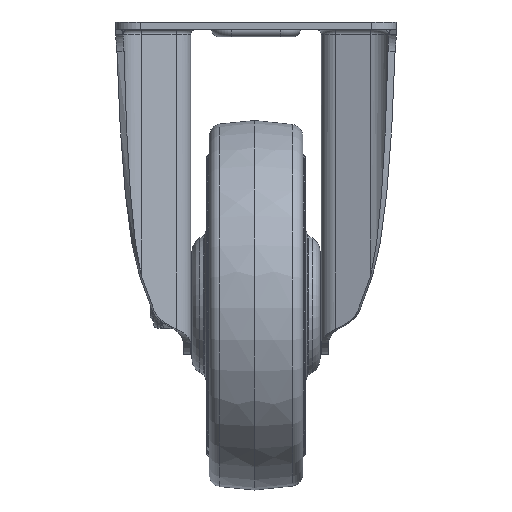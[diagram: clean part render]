
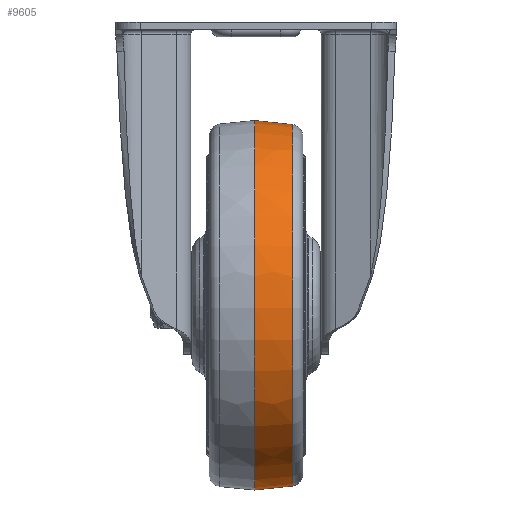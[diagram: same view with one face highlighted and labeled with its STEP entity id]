
A CAD part, front view. The second image highlights one B-rep face of the part: STEP entity #9605.
In plain terms, the highlighted free-form (B-spline) face has degree [2, 2] with [3, 9] control points.
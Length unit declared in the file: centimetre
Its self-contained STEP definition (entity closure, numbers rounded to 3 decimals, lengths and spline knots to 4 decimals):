
#1309=(
BOUNDED_CURVE()
B_SPLINE_CURVE(2,(#15712,#15713,#15714),.UNSPECIFIED.,.F.,.F.)
B_SPLINE_CURVE_WITH_KNOTS((3,3),(0.0063,0.2014),
 .UNSPECIFIED.)
CURVE()
GEOMETRIC_REPRESENTATION_ITEM()
RATIONAL_B_SPLINE_CURVE((1.,0.995,1.))
REPRESENTATION_ITEM('')
);
#1330=(
BOUNDED_SURFACE()
B_SPLINE_SURFACE(2,2,((#15681,#15682,#15683,#15684,#15685,#15686,#15687,
#15688,#15689),(#15690,#15691,#15692,#15693,#15694,#15695,#15696,#15697,
#15698),(#15699,#15700,#15701,#15702,#15703,#15704,#15705,#15706,#15707)),
 .UNSPECIFIED.,.F.,.T.,.F.)
B_SPLINE_SURFACE_WITH_KNOTS((3,3),(3,2,2,2,3),(-0.2014,-0.0063),
(-3.1416,-1.5708,0.,1.5708,3.1416),
 .UNSPECIFIED.)
GEOMETRIC_REPRESENTATION_ITEM()
RATIONAL_B_SPLINE_SURFACE(((1.,0.707,1.,0.707,1.,
0.707,1.,0.707,1.),(0.995,0.704,
0.995,0.704,0.995,0.704,
0.995,0.704,0.995),(1.,0.707,
1.,0.707,1.,0.707,1.,0.707,1.)))
REPRESENTATION_ITEM('')
SURFACE()
);
#2285=FACE_OUTER_BOUND('',#2898,.T.);
#2898=EDGE_LOOP('',(#6666,#6667,#6668,#6669,#6670,#6671));
#3613=CIRCLE('',#10295,7.3384);
#3614=CIRCLE('',#10296,7.3384);
#3615=CIRCLE('',#10297,7.4998);
#3616=CIRCLE('',#10298,7.4998);
#4070=VERTEX_POINT('',#15677);
#4071=VERTEX_POINT('',#15678);
#4072=VERTEX_POINT('',#15708);
#4073=VERTEX_POINT('',#15709);
#5072=EDGE_CURVE('',#4070,#4071,#3613,.T.);
#5073=EDGE_CURVE('',#4071,#4070,#3614,.T.);
#5074=EDGE_CURVE('',#4072,#4073,#3615,.T.);
#5075=EDGE_CURVE('',#4073,#4072,#3616,.T.);
#5076=EDGE_CURVE('',#4073,#4071,#1309,.T.);
#6666=ORIENTED_EDGE('',*,*,#5074,.F.);
#6667=ORIENTED_EDGE('',*,*,#5075,.F.);
#6668=ORIENTED_EDGE('',*,*,#5076,.T.);
#6669=ORIENTED_EDGE('',*,*,#5073,.T.);
#6670=ORIENTED_EDGE('',*,*,#5072,.T.);
#6671=ORIENTED_EDGE('',*,*,#5076,.F.);
#9605=ADVANCED_FACE('',(#2285),#1330,.F.);
#10295=AXIS2_PLACEMENT_3D('',#15679,#11357,#11358);
#10296=AXIS2_PLACEMENT_3D('',#15680,#11359,#11360);
#10297=AXIS2_PLACEMENT_3D('',#15710,#11361,#11362);
#10298=AXIS2_PLACEMENT_3D('',#15711,#11363,#11364);
#11357=DIRECTION('center_axis',(-1.,0.,0.));
#11358=DIRECTION('ref_axis',(0.,-0.191,0.982));
#11359=DIRECTION('center_axis',(-1.,0.,0.));
#11360=DIRECTION('ref_axis',(0.,-0.191,0.982));
#11361=DIRECTION('center_axis',(-1.,0.,0.));
#11362=DIRECTION('ref_axis',(0.,-0.191,0.982));
#11363=DIRECTION('center_axis',(-1.,0.,0.));
#11364=DIRECTION('ref_axis',(0.,-0.191,0.982));
#15677=CARTESIAN_POINT('',(1.7271,-5.4281,-4.2962));
#15678=CARTESIAN_POINT('',(1.7271,-2.6305,-18.7038));
#15679=CARTESIAN_POINT('Origin',(1.7271,-4.0293,-11.5));
#15680=CARTESIAN_POINT('Origin',(1.7271,-4.0293,-11.5));
#15681=CARTESIAN_POINT('Ctrl Pts',(1.7271,-2.6305,-18.7038));
#15682=CARTESIAN_POINT('Ctrl Pts',(1.7271,-9.8344,-20.1026));
#15683=CARTESIAN_POINT('Ctrl Pts',(1.7271,-11.2331,-12.8988));
#15684=CARTESIAN_POINT('Ctrl Pts',(1.7271,-12.6319,-5.695));
#15685=CARTESIAN_POINT('Ctrl Pts',(1.7271,-5.4281,-4.2962));
#15686=CARTESIAN_POINT('Ctrl Pts',(1.7271,1.7757,-2.8974));
#15687=CARTESIAN_POINT('Ctrl Pts',(1.7271,3.1745,-10.1012));
#15688=CARTESIAN_POINT('Ctrl Pts',(1.7271,4.5733,-17.305));
#15689=CARTESIAN_POINT('Ctrl Pts',(1.7271,-2.6305,-18.7038));
#15690=CARTESIAN_POINT('Ctrl Pts',(0.96,-2.6007,
-18.8575));
#15691=CARTESIAN_POINT('Ctrl Pts',(0.96,-9.9582,
-20.2862));
#15692=CARTESIAN_POINT('Ctrl Pts',(0.96,-11.3869,
-12.9286));
#15693=CARTESIAN_POINT('Ctrl Pts',(0.96,-12.8155,
-5.5711));
#15694=CARTESIAN_POINT('Ctrl Pts',(0.96,-5.458,
-4.1425));
#15695=CARTESIAN_POINT('Ctrl Pts',(0.96,1.8996,-2.7138));
#15696=CARTESIAN_POINT('Ctrl Pts',(0.96,3.3282,-10.0714));
#15697=CARTESIAN_POINT('Ctrl Pts',(0.96,4.7568,-17.4289));
#15698=CARTESIAN_POINT('Ctrl Pts',(0.96,-2.6007,
-18.8575));
#15699=CARTESIAN_POINT('Ctrl Pts',(0.1771,-2.5998,
-18.8623));
#15700=CARTESIAN_POINT('Ctrl Pts',(0.1771,-9.9621,
-20.2919));
#15701=CARTESIAN_POINT('Ctrl Pts',(0.1771,-11.3917,-12.9296));
#15702=CARTESIAN_POINT('Ctrl Pts',(0.1771,-12.8212,
-5.5672));
#15703=CARTESIAN_POINT('Ctrl Pts',(0.1771,-5.4589,
-4.1377));
#15704=CARTESIAN_POINT('Ctrl Pts',(0.1771,1.9034,-2.7081));
#15705=CARTESIAN_POINT('Ctrl Pts',(0.1771,3.333,-10.0704));
#15706=CARTESIAN_POINT('Ctrl Pts',(0.1771,4.7626,-17.4328));
#15707=CARTESIAN_POINT('Ctrl Pts',(0.1771,-2.5998,
-18.8623));
#15708=CARTESIAN_POINT('',(0.1771,-5.4589,-4.1377));
#15709=CARTESIAN_POINT('',(0.1771,-2.5998,-18.8623));
#15710=CARTESIAN_POINT('Origin',(0.1771,-4.0293,-11.5));
#15711=CARTESIAN_POINT('Origin',(0.1771,-4.0293,-11.5));
#15712=CARTESIAN_POINT('Ctrl Pts',(0.1771,-2.5998,
-18.8623));
#15713=CARTESIAN_POINT('Ctrl Pts',(0.96,-2.6007,
-18.8575));
#15714=CARTESIAN_POINT('Ctrl Pts',(1.7271,-2.6305,-18.7038));
